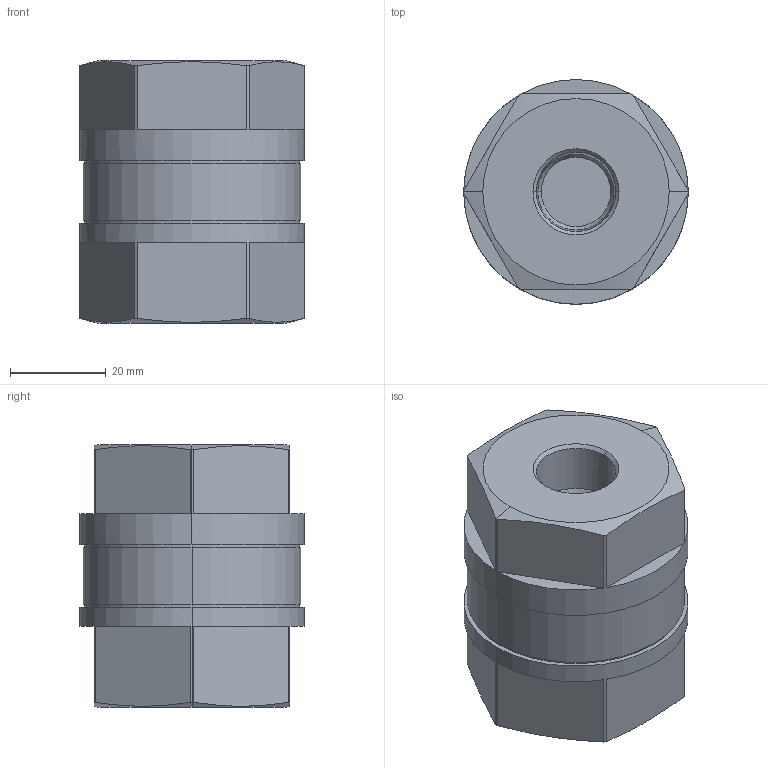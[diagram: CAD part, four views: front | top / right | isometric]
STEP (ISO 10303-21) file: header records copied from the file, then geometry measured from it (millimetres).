
FILE_DESCRIPTION( (''), '2;1');
FILE_NAME ('PC1276.4340.10A_13316.stp','2023-07-04T16:30:50',(''),(''),'spGate 19.8.4 (****-****-****-****)','','');
FILE_SCHEMA (('AUTOMOTIVE_DESIGN'));
Length unit declared in the file: millimetre
Bounding box: 47 x 47 x 55 mm (x, y, z)
Volume: 78642.9 mm3; surface area: 13539.3 mm2
Topology: 1 solids, 1 shells, 67 faces, 156 edges, 98 vertices
Faces by surface type: plane 33, bspline 18, cylinder 16
Entity records: 3373 total; most frequent: CARTESIAN_POINT 651, ORIENTED_EDGE 312, DIRECTION 282, COLOUR_RGB 224, PRESENTATION_STYLE_ASSIGNMENT 224, STYLED_ITEM 224, EDGE_CURVE 156, DRAUGHTING_PRE_DEFINED_CURVE_FONT 156
